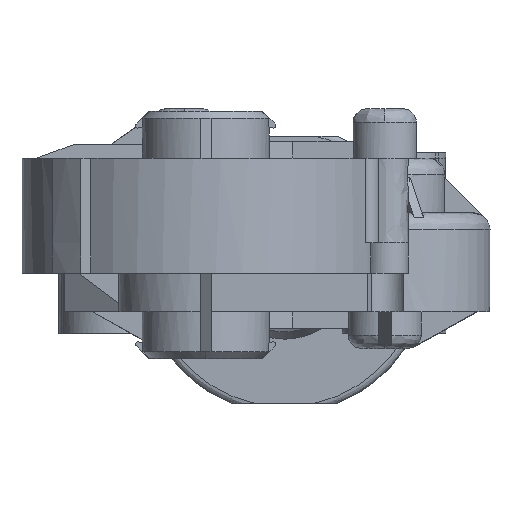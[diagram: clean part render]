
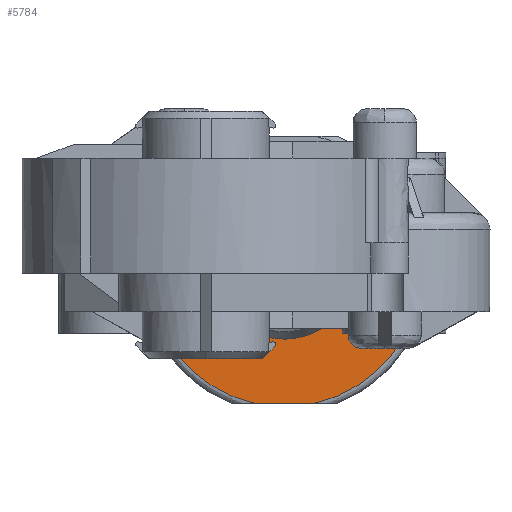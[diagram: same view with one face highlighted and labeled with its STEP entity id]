
A CAD part, front view. The second image highlights one B-rep face of the part: STEP entity #5784.
In plain terms, the highlighted free-form (B-spline) face has degree [1, 1] with [2, 2] control points.
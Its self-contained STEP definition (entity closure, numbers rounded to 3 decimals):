
#207 = VERTEX_POINT ( 'NONE', #8944 ) ;
#208 = VERTEX_POINT ( 'NONE', #8945 ) ;
#209 = VERTEX_POINT ( 'NONE', #8946 ) ;
#210 = VERTEX_POINT ( 'NONE', #8947 ) ;
#211 = VERTEX_POINT ( 'NONE', #8948 ) ;
#375 = VERTEX_POINT ( 'NONE', #9112 ) ;
#376 = VERTEX_POINT ( 'NONE', #9113 ) ;
#382 = VERTEX_POINT ( 'NONE', #9119 ) ;
#383 = VERTEX_POINT ( 'NONE', #9120 ) ;
#1016 = ORIENTED_EDGE ( 'NONE', *, *, #5609, .T. ) ;
#1017 = ORIENTED_EDGE ( 'NONE', *, *, #8328, .T. ) ;
#1018 = ORIENTED_EDGE ( 'NONE', *, *, #5603, .T. ) ;
#1019 = ORIENTED_EDGE ( 'NONE', *, *, #5604, .T. ) ;
#1020 = ORIENTED_EDGE ( 'NONE', *, *, #5607, .T. ) ;
#1021 = ORIENTED_EDGE ( 'NONE', *, *, #2212, .F. ) ;
#1022 = ORIENTED_EDGE ( 'NONE', *, *, #5610, .T. ) ;
#1023 = ORIENTED_EDGE ( 'NONE', *, *, #5611, .T. ) ;
#1024 = ORIENTED_EDGE ( 'NONE', *, *, #2198, .F. ) ;
#1025 = ORIENTED_EDGE ( 'NONE', *, *, #5597, .T. ) ;
#1026 = ORIENTED_EDGE ( 'NONE', *, *, #5613, .T. ) ;
#1552 = FACE_OUTER_BOUND ( 'NONE', #10460, .T. ) ;
#2198 = EDGE_CURVE ( 'NONE', #383, #382, #10867, .T. ) ;
#2212 = EDGE_CURVE ( 'NONE', #376, #375, #10881, .T. ) ;
#2710 = CARTESIAN_POINT ( 'NONE',  ( -18.48, -3.5, -8.8 ) ) ;
#2711 = CARTESIAN_POINT ( 'NONE',  ( -5.528, -3.5, -8.8 ) ) ;
#2765 = CARTESIAN_POINT ( 'NONE',  ( 5.528, -3.5, -8.8 ) ) ;
#2766 = CARTESIAN_POINT ( 'NONE',  ( 8.639, -3.5, -8.8 ) ) ;
#3854 = B_SPLINE_CURVE_WITH_KNOTS ( 'NONE', 1,
 ( #4243, #4244 ),
 .UNSPECIFIED., .F., .F.,
 ( 2, 2 ),
 ( 0., 1. ),
 .UNSPECIFIED. ) ;
#3860 = B_SPLINE_CURVE_WITH_KNOTS ( 'NONE', 3,
 ( #4276, #4280, #4281, #4282, #4283, #4284, #4285, #4286, #4287, #4288 ),
 .UNSPECIFIED., .F., .F.,
 ( 4, 2, 2, 2, 4 ),
 ( 0., 0.25, 0.5, 0.75, 1. ),
 .UNSPECIFIED. ) ;
#3861 = B_SPLINE_CURVE_WITH_KNOTS ( 'NONE', 1,
 ( #4290, #4291 ),
 .UNSPECIFIED., .F., .F.,
 ( 2, 2 ),
 ( 0., 1. ),
 .UNSPECIFIED. ) ;
#3864 = B_SPLINE_CURVE_WITH_KNOTS ( 'NONE', 1,
 ( #4297, #4298 ),
 .UNSPECIFIED., .F., .F.,
 ( 2, 2 ),
 ( 0., 1. ),
 .UNSPECIFIED. ) ;
#3866 = B_SPLINE_CURVE_WITH_KNOTS ( 'NONE', 3,
 ( #4289, #4301, #4302, #4303, #4304, #4305, #4306, #4307, #4308, #4309 ),
 .UNSPECIFIED., .F., .F.,
 ( 4, 2, 2, 2, 4 ),
 ( 0., 0.25, 0.5, 0.75, 1. ),
 .UNSPECIFIED. ) ;
#3867 = B_SPLINE_CURVE_WITH_KNOTS ( 'NONE', 3,
 ( #4296, #4311, #4312, #4313, #4314, #4315 ),
 .UNSPECIFIED., .F., .F.,
 ( 4, 2, 4 ),
 ( 0., 0.5, 1. ),
 .UNSPECIFIED. ) ;
#3868 = B_SPLINE_CURVE_WITH_KNOTS ( 'NONE', 3,
 ( #4310, #4317, #4318, #4319, #4320, #4321 ),
 .UNSPECIFIED., .F., .F.,
 ( 4, 2, 4 ),
 ( 0., 0.5, 1. ),
 .UNSPECIFIED. ) ;
#3870 = B_SPLINE_CURVE_WITH_KNOTS ( 'NONE', 1,
 ( #4341, #4342 ),
 .UNSPECIFIED., .F., .F.,
 ( 2, 2 ),
 ( 0., 1. ),
 .UNSPECIFIED. ) ;
#3924 = B_SPLINE_SURFACE_WITH_KNOTS ( 'NONE', 1, 1, ( 
 ( #5123, #5122 ),
 ( #5107, #5124 ) ),
 .UNSPECIFIED., .F., .F., .F.,
 ( 2, 2 ),
 ( 2, 2 ),
 ( 0.019, 0.981 ),
 ( 0., 1. ),
 .UNSPECIFIED. ) ;
#4243 = CARTESIAN_POINT ( 'NONE',  ( -18.48, -3.5, -8.8 ) ) ;
#4244 = CARTESIAN_POINT ( 'NONE',  ( -18.48, -3.5, -6.3 ) ) ;
#4276 = CARTESIAN_POINT ( 'NONE',  ( 4.5, -3.5, -20. ) ) ;
#4280 = CARTESIAN_POINT ( 'NONE',  ( 6.238, -3.5, -19.609 ) ) ;
#4281 = CARTESIAN_POINT ( 'NONE',  ( 7.897, -3.5, -19.001 ) ) ;
#4282 = CARTESIAN_POINT ( 'NONE',  ( 11.057, -3.5, -17.354 ) ) ;
#4283 = CARTESIAN_POINT ( 'NONE',  ( 12.505, -3.5, -16.342 ) ) ;
#4284 = CARTESIAN_POINT ( 'NONE',  ( 15.137, -3.5, -13.939 ) ) ;
#4285 = CARTESIAN_POINT ( 'NONE',  ( 16.277, -3.5, -12.589 ) ) ;
#4286 = CARTESIAN_POINT ( 'NONE',  ( 18.205, -3.5, -9.592 ) ) ;
#4287 = CARTESIAN_POINT ( 'NONE',  ( 18.96, -3.5, -7.995 ) ) ;
#4288 = CARTESIAN_POINT ( 'NONE',  ( 19.508, -3.5, -6.3 ) ) ;
#4289 = CARTESIAN_POINT ( 'NONE',  ( -19.508, -3.5, -6.3 ) ) ;
#4290 = CARTESIAN_POINT ( 'NONE',  ( 19.508, -3.5, -6.3 ) ) ;
#4291 = CARTESIAN_POINT ( 'NONE',  ( 8.639, -3.5, -6.3 ) ) ;
#4296 = CARTESIAN_POINT ( 'NONE',  ( 5.528, -3.5, -8.8 ) ) ;
#4297 = CARTESIAN_POINT ( 'NONE',  ( 8.639, -3.5, -6.3 ) ) ;
#4298 = CARTESIAN_POINT ( 'NONE',  ( 8.639, -3.5, -8.8 ) ) ;
#4301 = CARTESIAN_POINT ( 'NONE',  ( -18.96, -3.5, -7.995 ) ) ;
#4302 = CARTESIAN_POINT ( 'NONE',  ( -18.205, -3.5, -9.592 ) ) ;
#4303 = CARTESIAN_POINT ( 'NONE',  ( -16.277, -3.5, -12.589 ) ) ;
#4304 = CARTESIAN_POINT ( 'NONE',  ( -15.137, -3.5, -13.939 ) ) ;
#4305 = CARTESIAN_POINT ( 'NONE',  ( -12.505, -3.5, -16.342 ) ) ;
#4306 = CARTESIAN_POINT ( 'NONE',  ( -11.057, -3.5, -17.354 ) ) ;
#4307 = CARTESIAN_POINT ( 'NONE',  ( -7.897, -3.5, -19.001 ) ) ;
#4308 = CARTESIAN_POINT ( 'NONE',  ( -6.238, -3.5, -19.609 ) ) ;
#4309 = CARTESIAN_POINT ( 'NONE',  ( -4.5, -3.5, -20. ) ) ;
#4310 = CARTESIAN_POINT ( 'NONE',  ( 0., -3.5, -10.392 ) ) ;
#4311 = CARTESIAN_POINT ( 'NONE',  ( 4.7, -3.5, -9.32 ) ) ;
#4312 = CARTESIAN_POINT ( 'NONE',  ( 3.816, -3.5, -9.716 ) ) ;
#4313 = CARTESIAN_POINT ( 'NONE',  ( 1.937, -3.5, -10.257 ) ) ;
#4314 = CARTESIAN_POINT ( 'NONE',  ( 0.978, -3.5, -10.392 ) ) ;
#4315 = CARTESIAN_POINT ( 'NONE',  ( 0., -3.5, -10.392 ) ) ;
#4317 = CARTESIAN_POINT ( 'NONE',  ( -0.978, -3.5, -10.392 ) ) ;
#4318 = CARTESIAN_POINT ( 'NONE',  ( -1.937, -3.5, -10.257 ) ) ;
#4319 = CARTESIAN_POINT ( 'NONE',  ( -3.816, -3.5, -9.716 ) ) ;
#4320 = CARTESIAN_POINT ( 'NONE',  ( -4.7, -3.5, -9.32 ) ) ;
#4321 = CARTESIAN_POINT ( 'NONE',  ( -5.528, -3.5, -8.8 ) ) ;
#4341 = CARTESIAN_POINT ( 'NONE',  ( -18.48, -3.5, -6.3 ) ) ;
#4342 = CARTESIAN_POINT ( 'NONE',  ( -19.508, -3.5, -6.3 ) ) ;
#5107 = CARTESIAN_POINT ( 'NONE',  ( -19.742, -3.5, -6.3 ) ) ;
#5122 = CARTESIAN_POINT ( 'NONE',  ( 19.742, -3.5, -20. ) ) ;
#5123 = CARTESIAN_POINT ( 'NONE',  ( 19.742, -3.5, -6.3 ) ) ;
#5124 = CARTESIAN_POINT ( 'NONE',  ( -19.742, -3.5, -20. ) ) ;
#5597 = EDGE_CURVE ( 'NONE', #383, #207, #3854, .T. ) ;
#5603 = EDGE_CURVE ( 'NONE', #8758, #209, #3860, .T. ) ;
#5604 = EDGE_CURVE ( 'NONE', #209, #211, #3861, .T. ) ;
#5607 = EDGE_CURVE ( 'NONE', #211, #375, #3864, .T. ) ;
#5609 = EDGE_CURVE ( 'NONE', #210, #8762, #3866, .T. ) ;
#5610 = EDGE_CURVE ( 'NONE', #376, #208, #3867, .T. ) ;
#5611 = EDGE_CURVE ( 'NONE', #208, #382, #3868, .T. ) ;
#5613 = EDGE_CURVE ( 'NONE', #207, #210, #3870, .T. ) ;
#5784 = ADVANCED_FACE ( 'NONE', ( #1552 ), #3924, .T. ) ;
#8328 = EDGE_CURVE ( 'NONE', #8762, #8758, #18122, .T. ) ;
#8758 = VERTEX_POINT ( 'NONE', #18318 ) ;
#8762 = VERTEX_POINT ( 'NONE', #18322 ) ;
#8944 = CARTESIAN_POINT ( 'NONE',  ( -18.48, -3.5, -6.3 ) ) ;
#8945 = CARTESIAN_POINT ( 'NONE',  ( 0., -3.5, -10.392 ) ) ;
#8946 = CARTESIAN_POINT ( 'NONE',  ( 19.508, -3.5, -6.3 ) ) ;
#8947 = CARTESIAN_POINT ( 'NONE',  ( -19.508, -3.5, -6.3 ) ) ;
#8948 = CARTESIAN_POINT ( 'NONE',  ( 8.639, -3.5, -6.3 ) ) ;
#9112 = CARTESIAN_POINT ( 'NONE',  ( 8.639, -3.5, -8.8 ) ) ;
#9113 = CARTESIAN_POINT ( 'NONE',  ( 5.528, -3.5, -8.8 ) ) ;
#9119 = CARTESIAN_POINT ( 'NONE',  ( -5.528, -3.5, -8.8 ) ) ;
#9120 = CARTESIAN_POINT ( 'NONE',  ( -18.48, -3.5, -8.8 ) ) ;
#10460 = EDGE_LOOP ( 'NONE', ( #1016, #1017, #1018, #1019, #1020, #1021, #1022, #1023, #1024, #1025, #1026 ) ) ;
#10867 = B_SPLINE_CURVE_WITH_KNOTS ( 'NONE', 1,
 ( #2710, #2711 ),
 .UNSPECIFIED., .F., .F.,
 ( 2, 2 ),
 ( 0., 1. ),
 .UNSPECIFIED. ) ;
#10881 = B_SPLINE_CURVE_WITH_KNOTS ( 'NONE', 1,
 ( #2765, #2766 ),
 .UNSPECIFIED., .F., .F.,
 ( 2, 2 ),
 ( 0., 1. ),
 .UNSPECIFIED. ) ;
#17850 = CARTESIAN_POINT ( 'NONE',  ( -4.5, -3.5, -20. ) ) ;
#17851 = CARTESIAN_POINT ( 'NONE',  ( 4.5, -3.5, -20. ) ) ;
#18122 = B_SPLINE_CURVE_WITH_KNOTS ( 'NONE', 1,
 ( #17850, #17851 ),
 .UNSPECIFIED., .F., .F.,
 ( 2, 2 ),
 ( 0., 1. ),
 .UNSPECIFIED. ) ;
#18318 = CARTESIAN_POINT ( 'NONE',  ( 4.5, -3.5, -20. ) ) ;
#18322 = CARTESIAN_POINT ( 'NONE',  ( -4.5, -3.5, -20. ) ) ;
